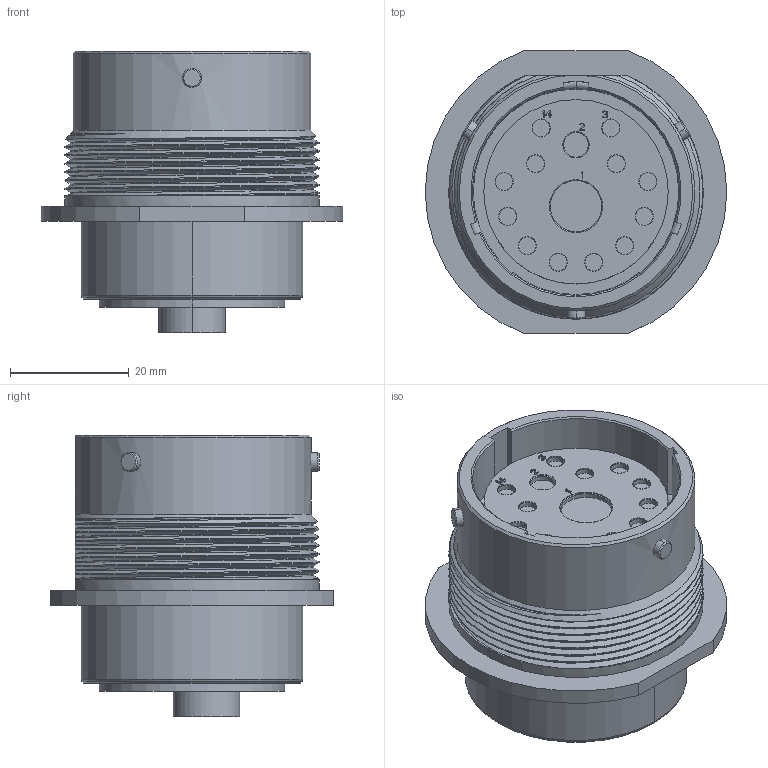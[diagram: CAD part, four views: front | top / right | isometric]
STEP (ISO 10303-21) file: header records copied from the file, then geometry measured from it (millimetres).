
FILE_DESCRIPTION((''),'2;1');
FILE_NAME('C-HD34-24-14SN','2013-03-18T',('workeradm'),('Tyco Electronics Ltd.'),'PRO/ENGINEER BY PARAMETRIC TECHNOLOGY CORPORATION, 2010430','PRO/ENGINEER BY PARAMETRIC TECHNOLOGY CORPORATION, 2010430','');
FILE_SCHEMA(('AUTOMOTIVE_DESIGN { 1 0 10303 214 1 1 1 1 }'));
Length unit declared in the file: millimetre
Products named in the file (1): C-HD34-24-14SN
Bounding box: 50.8 x 47.62 x 47.47 mm (x, y, z)
Volume: 47764 mm3; surface area: 14000 mm2
Topology: 1 solids, 1 shells, 462 faces, 1084 edges, 684 vertices
Faces by surface type: plane 191, cylinder 155, cone 45, torus 40, bspline 31
Entity records: 18959 total; most frequent: CARTESIAN_POINT 8040, DIRECTION 2233, ORIENTED_EDGE 2168, EDGE_CURVE 1084, AXIS2_PLACEMENT_3D 812, VERTEX_POINT 684, VECTOR 609, LINE 609
